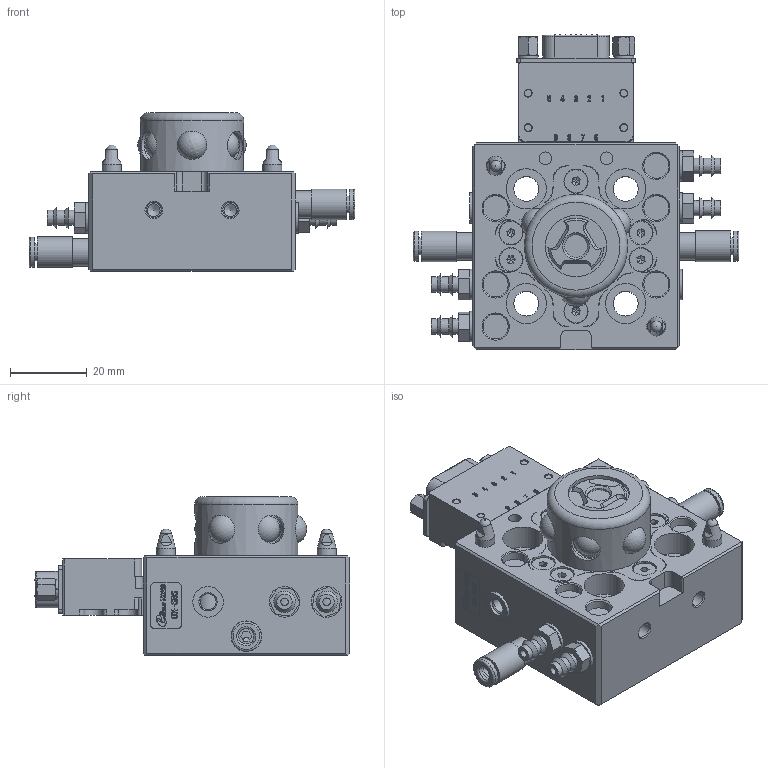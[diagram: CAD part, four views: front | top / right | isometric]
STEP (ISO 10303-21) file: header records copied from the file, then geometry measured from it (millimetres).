
FILE_DESCRIPTION (( 'STEP AP203' ), '1' );
FILE_NAME ('OX-SBS.STEP', '2019-08-09T09:00:19', ( '' ), ( '' ), 'SwSTEP 2.0', 'SolidWorks 2018', '' );
FILE_SCHEMA (( 'CONFIG_CONTROL_DESIGN' ));
Products named in the file (2): OX-SBS
Bounding box: 85.2 x 82.4 x 41.5 mm (x, y, z)
Volume: 85355.6 mm3; surface area: 30567.1 mm2
Topology: 19 solids, 40 shells, 2315 faces, 6075 edges, 3950 vertices
Faces by surface type: plane 1291, bspline 472, cylinder 325, cone 200, torus 21, sphere 6
Full cylindrical faces by diameter (mm): 0.8 x9, 1.5 x2, 2 x4, 2.05 x2, 2.1 x6, 2.4 x2, 2.5 x8, 2.6 x2, 3 x16, 3.3 x4, 3.4 x8, 4 x18, 4.2 x4, 4.39 x2, 4.5 x2, 4.8 x6, 5 x10, 5.5 x2, 6 x11, 6.3 x6, 6.5 x27, 7.2 x2, 7.9 x2, 8 x8, 8.1 x6, 8.4 x2, 10.5 x4, 16 x1, 27 x1
Entity records: 95605 total; most frequent: CARTESIAN_POINT 45412, ORIENTED_EDGE 10810, DIRECTION 8552, EDGE_CURVE 5405, VERTEX_POINT 3680, LINE 3628, VECTOR 3628, EDGE_LOOP 2779
